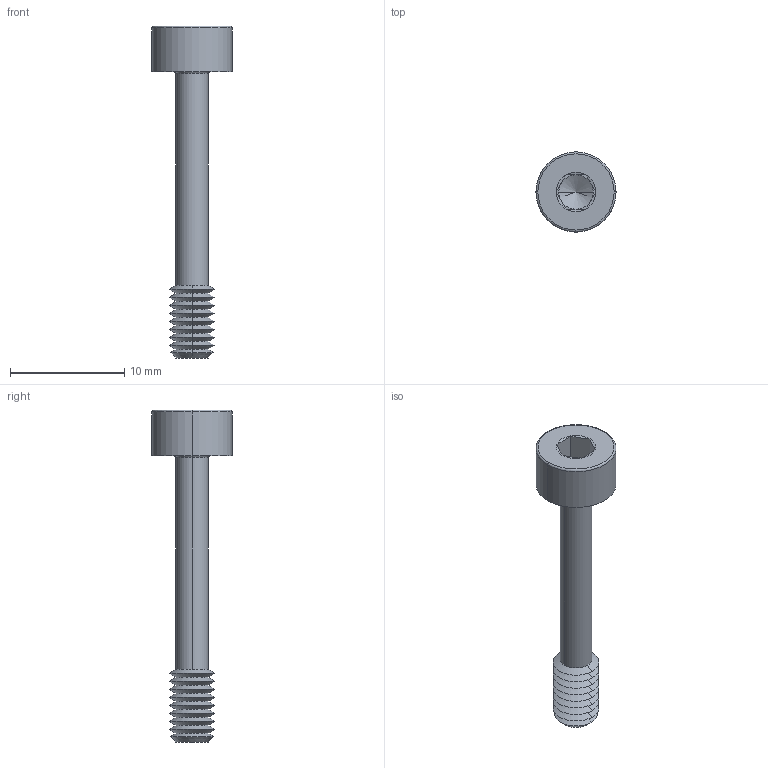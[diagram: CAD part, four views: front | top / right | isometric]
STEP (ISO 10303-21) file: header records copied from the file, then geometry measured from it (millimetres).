
FILE_DESCRIPTION (( 'STEP AP203' ), '1' );
FILE_NAME ('P0154.040-025-BL.step', '2024-06-17T11:24:54', ( '' ), ( '' ), 'SwSTEP 2.0', 'SolidWorks 2019', '' );
FILE_SCHEMA (( 'CONFIG_CONTROL_DESIGN' ));
Length unit declared in the file: millimetre
Products named in the file (1): P0154.040-025-BL
Bounding box: 7 x 7 x 29 mm (x, y, z)
Volume: 300.8 mm3; surface area: 490.6 mm2
Topology: 1 solids, 1 shells, 67 faces, 136 edges, 71 vertices
Faces by surface type: cone 44, plane 15, torus 4, cylinder 4
Entity records: 1787 total; most frequent: DIRECTION 332, CARTESIAN_POINT 299, ORIENTED_EDGE 268, AXIS2_PLACEMENT_3D 136, EDGE_CURVE 134, VERTEX_POINT 71, EDGE_LOOP 69, CIRCLE 68
